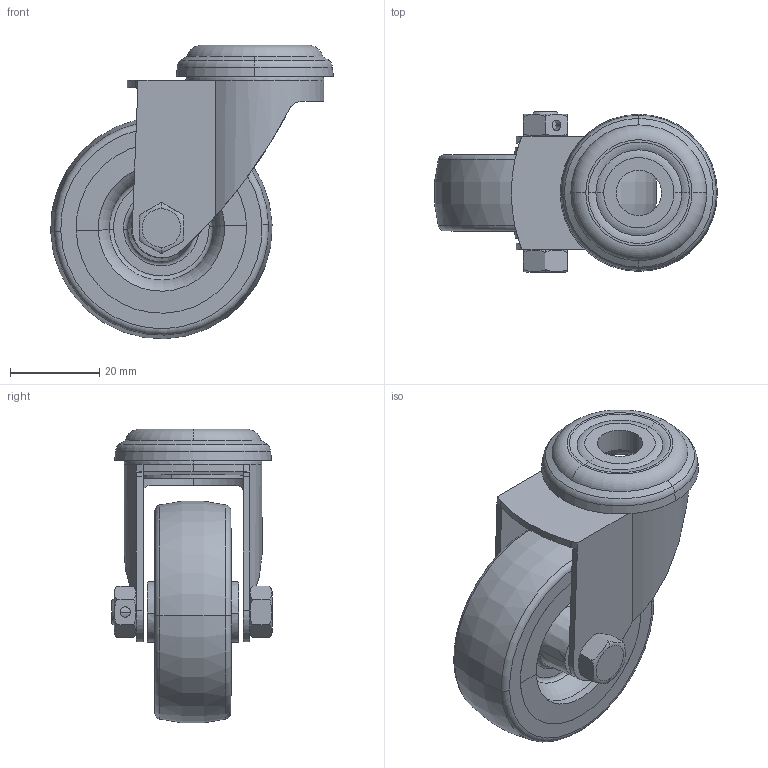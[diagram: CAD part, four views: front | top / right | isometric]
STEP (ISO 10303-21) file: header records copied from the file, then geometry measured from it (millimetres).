
FILE_DESCRIPTION (( 'STEP AP203' ), '1' );
FILE_NAME ('100078_STEP.STEP', '2012-06-11T10:52:37', ( ' ' ), ( '' ), 'SwSTEP 2.0', 'SolidWorks 2011', '' );
FILE_SCHEMA (( 'CONFIG_CONTROL_DESIGN' ));
Length unit declared in the file: millimetre
Products named in the file (1): 100078_STEP
Bounding box: 63.53 x 36 x 65.95 mm (x, y, z)
Surface area: 18147.5 mm2 (no closed solid volume)
Topology: 0 solids, 18 shells, 171 faces, 452 edges, 296 vertices
Faces by surface type: torus 52, plane 43, cylinder 36, sphere 20, cone 18, bspline 2
Entity records: 5918 total; most frequent: CARTESIAN_POINT 1916, DIRECTION 878, ORIENTED_EDGE 752, EDGE_CURVE 400, AXIS2_PLACEMENT_3D 390, VERTEX_POINT 266, CIRCLE 220, EDGE_LOOP 193
